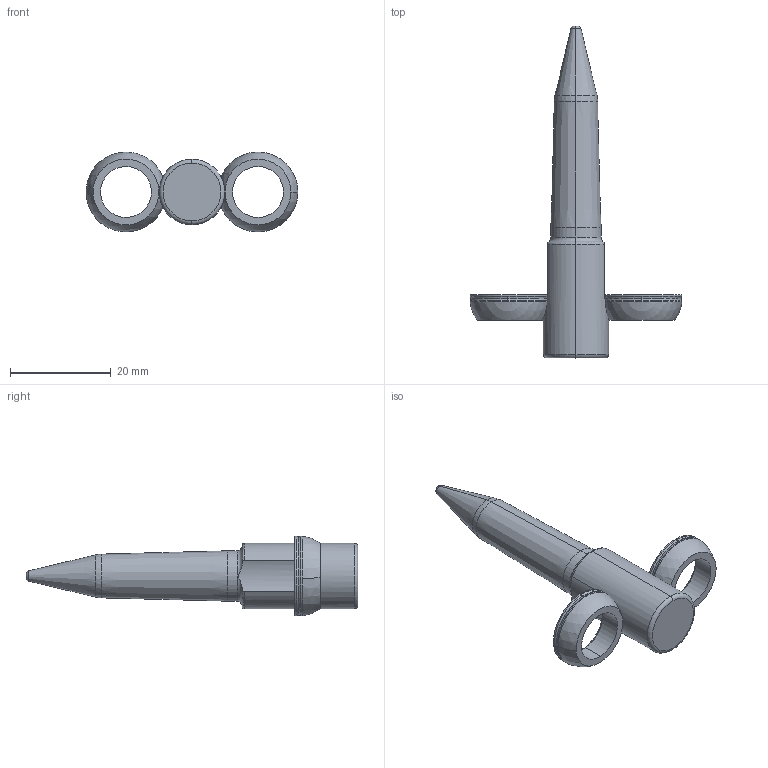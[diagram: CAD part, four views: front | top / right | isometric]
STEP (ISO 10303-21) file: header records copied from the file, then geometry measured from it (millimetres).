
FILE_DESCRIPTION (( 'STEP AP214' ), '1' );
FILE_NAME ('PA-T-10mm-1.9mm-25mm-3-A-F2.STEP', '2019-05-08T18:01:45', ( '' ), ( '' ), 'SwSTEP 2.0', 'SolidWorks 2017', '' );
FILE_SCHEMA (( 'AUTOMOTIVE_DESIGN' ));
Length unit declared in the file: inch
Products named in the file (3): SLRadiusWasher_RadiusWasher-M; PA-T-10mm-1.9mm-25mm-3-A-F2; SLPilot-PA-T-M_PA-T-10-1.9-25-3-A-F2
Assembly tree (3 placements, depth 2):
  PA-T-10mm-1.9mm-25mm-3-A-F2
    SLRadiusWasher_RadiusWasher-M  x2
    SLPilot-PA-T-M_PA-T-10-1.9-25-3-A-F2
Bounding box: 42.06 x 65.9 x 15.88 mm (x, y, z)
Volume: 6189.9 mm3; surface area: 3309.6 mm2
Topology: 3 solids, 3 shells, 61 faces, 136 edges, 81 vertices
Faces by surface type: torus 19, cylinder 18, cone 8, sphere 8, plane 8
Entity records: 1569 total; most frequent: CARTESIAN_POINT 348, DIRECTION 266, ORIENTED_EDGE 204, AXIS2_PLACEMENT_3D 123, EDGE_CURVE 102, CIRCLE 72, VERTEX_POINT 61, EDGE_LOOP 47
